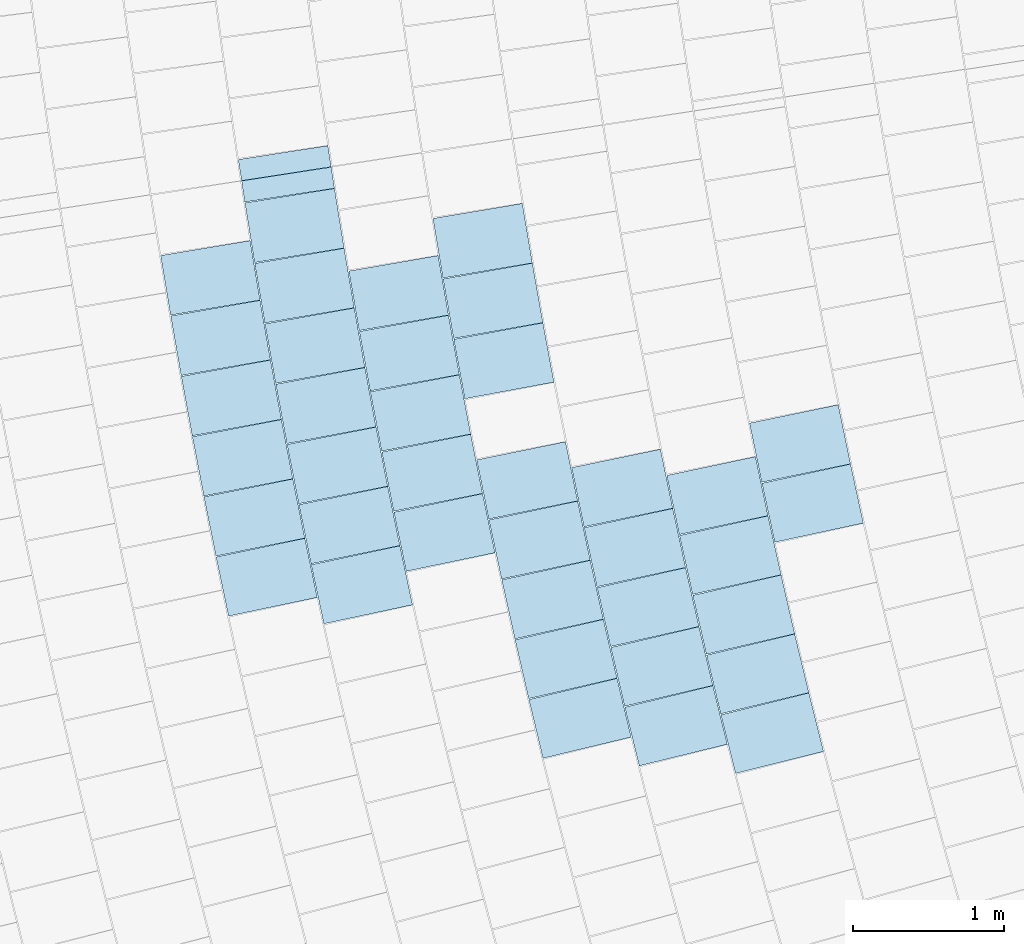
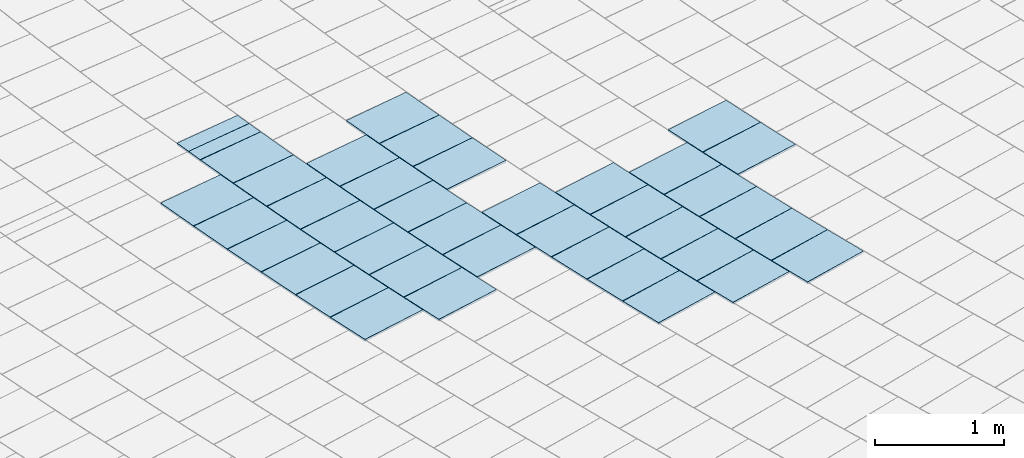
# One storey, part 76 of 438: 40 slabs.
"""IFC2X3 building model written with IfcOpenShell, lengths in millimetres."""

from ifc_helpers import new_model, entity, si_unit, converted_unit, derived_unit, direction, frame, origin, place, context, subcontext, project, spatial, polyline, outline, extrude, material, layer, layer_set, layer_usage, type_object, element, save


model = new_model("IFC2X3")

# Units and contexts
model_context = context("Model", 3, precision=0.01, world=origin(), true_north=direction((6.123031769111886e-17, 1.0)))
body_context = subcontext(model_context, "Body", "Model", "MODEL_VIEW")
ifc_project = project(units=[si_unit("LENGTHUNIT", "METRE", prefix="MILLI"), si_unit("AREAUNIT", "SQUARE_METRE"), si_unit("VOLUMEUNIT", "CUBIC_METRE"), converted_unit("PLANEANGLEUNIT", "DEGREE", entity("IfcRatioMeasure", 0.017453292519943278), si_unit("PLANEANGLEUNIT", "RADIAN"), dimensions=[0, 0, 0, 0, 0, 0, 0]), si_unit("MASSUNIT", "GRAM", prefix="KILO"), derived_unit("MASSDENSITYUNIT", [(si_unit("MASSUNIT", "GRAM", prefix="KILO"), 1), (si_unit("LENGTHUNIT", "METRE"), -3)]), derived_unit("MOMENTOFINERTIAUNIT", [(si_unit("LENGTHUNIT", "METRE"), 4)]), si_unit("TIMEUNIT", "SECOND"), si_unit("FREQUENCYUNIT", "HERTZ"), si_unit("THERMODYNAMICTEMPERATUREUNIT", "DEGREE_CELSIUS"), derived_unit("THERMALTRANSMITTANCEUNIT", [(si_unit("MASSUNIT", "GRAM", prefix="KILO"), 1), (si_unit("THERMODYNAMICTEMPERATUREUNIT", "KELVIN"), -1), (si_unit("TIMEUNIT", "SECOND"), -3)]), derived_unit("THERMALCONDUCTANCEUNIT", [(si_unit("MASSUNIT", "GRAM", prefix="KILO"), 1), (si_unit("LENGTHUNIT", "METRE"), 1), (si_unit("THERMODYNAMICTEMPERATUREUNIT", "KELVIN"), -1), (si_unit("TIMEUNIT", "SECOND"), -3)]), derived_unit("VOLUMETRICFLOWRATEUNIT", [(si_unit("LENGTHUNIT", "METRE"), 3), (si_unit("TIMEUNIT", "SECOND"), -1)]), derived_unit("MASSFLOWRATEUNIT", [(si_unit("MASSUNIT", "GRAM", prefix="KILO"), 1), (si_unit("TIMEUNIT", "SECOND"), -1)]), derived_unit("ROTATIONALFREQUENCYUNIT", [(si_unit("TIMEUNIT", "SECOND"), -1)]), si_unit("ELECTRICCURRENTUNIT", "AMPERE"), si_unit("ELECTRICVOLTAGEUNIT", "VOLT"), si_unit("POWERUNIT", "WATT"), converted_unit("FORCEUNIT", "KIP", entity("IfcRatioMeasure", 2.088543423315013e-05), si_unit("FORCEUNIT", "NEWTON"), dimensions=[1, 1, -2, 0, 0, 0, 0]), si_unit("ILLUMINANCEUNIT", "LUX"), si_unit("LUMINOUSFLUXUNIT", "LUMEN"), si_unit("LUMINOUSINTENSITYUNIT", "CANDELA"), derived_unit("USERDEFINED", [(si_unit("MASSUNIT", "GRAM", prefix="KILO"), -1), (si_unit("LENGTHUNIT", "METRE"), -2), (si_unit("TIMEUNIT", "SECOND"), 3), (si_unit("LUMINOUSFLUXUNIT", "LUMEN"), 1)]), derived_unit("USERDEFINED", [(si_unit("MASSUNIT", "GRAM", prefix="KILO"), 1), (si_unit("LENGTHUNIT", "METRE"), 3), (si_unit("TIMEUNIT", "SECOND"), -3), (si_unit("ELECTRICCURRENTUNIT", "AMPERE"), -2)]), derived_unit("USERDEFINED", [(si_unit("LENGTHUNIT", "METRE"), 2), (si_unit("TIMEUNIT", "SECOND"), -2)]), derived_unit("SOUNDPOWERUNIT", [(si_unit("MASSUNIT", "GRAM", prefix="KILO"), 1), (si_unit("LENGTHUNIT", "METRE"), 2), (si_unit("TIMEUNIT", "SECOND"), -3)]), derived_unit("SOUNDPRESSUREUNIT", [(si_unit("MASSUNIT", "GRAM", prefix="KILO"), 1), (si_unit("LENGTHUNIT", "METRE"), -1), (si_unit("TIMEUNIT", "SECOND"), -2)]), derived_unit("LINEARVELOCITYUNIT", [(si_unit("LENGTHUNIT", "METRE"), 1), (si_unit("TIMEUNIT", "SECOND"), -1)]), si_unit("PRESSUREUNIT", "PASCAL"), derived_unit("USERDEFINED", [(si_unit("LENGTHUNIT", "METRE"), -2), (si_unit("MASSUNIT", "GRAM", prefix="KILO"), 1), (si_unit("TIMEUNIT", "SECOND"), -2)]), derived_unit("LINEARFORCEUNIT", [(si_unit("MASSUNIT", "GRAM", prefix="KILO"), 1), (si_unit("LENGTHUNIT", "METRE"), 1), (si_unit("TIMEUNIT", "SECOND"), -2), (si_unit("LENGTHUNIT", "METRE"), -1)]), derived_unit("PLANARFORCEUNIT", [(si_unit("MASSUNIT", "GRAM", prefix="KILO"), 1), (si_unit("LENGTHUNIT", "METRE"), 1), (si_unit("TIMEUNIT", "SECOND"), -2), (si_unit("LENGTHUNIT", "METRE"), -2)]), derived_unit("SPECIFICHEATCAPACITYUNIT", [(si_unit("LENGTHUNIT", "METRE"), 2), (si_unit("TIMEUNIT", "SECOND"), -2), (si_unit("THERMODYNAMICTEMPERATUREUNIT", "KELVIN"), -1)]), derived_unit("VAPORPERMEABILITYUNIT", [(si_unit("TIMEUNIT", "SECOND"), 1), (si_unit("LENGTHUNIT", "METRE"), -1)]), derived_unit("DYNAMICVISCOSITYUNIT", [(si_unit("MASSUNIT", "GRAM", prefix="KILO"), 1), (si_unit("LENGTHUNIT", "METRE"), -1), (si_unit("TIMEUNIT", "SECOND"), -1)]), derived_unit("THERMALEXPANSIONCOEFFICIENTUNIT", [(si_unit("THERMODYNAMICTEMPERATUREUNIT", "KELVIN"), -1)])], contexts=[model_context])

# Site, building, storey
site_placement = place(None, frame((0.0, 0.0, 0.0), z_axis=(0.0, 0.0, 1.0), x_axis=(0.8191520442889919, 0.5735764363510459, 0.0)))
site = spatial("IfcSite", under=ifc_project, at=site_placement, Name="Default", CompositionType="ELEMENT")
building_placement = place(site_placement, origin())
building = spatial("IfcBuilding", under=site, at=building_placement, CompositionType="ELEMENT")
storey_placement = place(building_placement, origin())
storey = spatial("IfcBuildingStorey", under=building, at=storey_placement, Name="PLAN", CompositionType="ELEMENT", Elevation=0.0)

# Slabs
ifc_material = material(Name="Paint-01")
ifc_layer = layer(ifc_material, 20.00000000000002)
ifc_layer_set = layer_set([ifc_layer], Name="Floor:Slab-179:1000")
ifc_layer_usage = layer_usage(ifc_layer_set, "AXIS3", "POSITIVE", 0.0)
slab_type = type_object("IfcSlabType", Name="Floor:Slab-179:1000", PredefinedType="FLOOR", material=ifc_layer_set)
slab_1_placement = place(storey_placement, origin())
element("IfcSlab", 1, at=slab_1_placement, inside=storey, type_object=slab_type, material=ifc_layer_usage, Name="Floor:Slab-179:1000", ObjectType="Floor:Slab-179:1000", PredefinedType="FLOOR", context=body_context, shape_type="SweptSolid", body=[
    extrude(outline(polyline([(-300.0, -200.00000294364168), (299.99999762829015, -200.00000294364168), (300.0, 200.0000029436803), (-299.99999762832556, 200.0000029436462), (-300.0, -200.00000294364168)])), frame((-82726.3799385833, -51478.88482372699, 520.0), z_axis=(0.0, 0.0, -1.0), x_axis=(0.9321667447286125, -0.36202922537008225, 0.0)), (0.0, 0.0, 1.0), 20.000000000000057),
])
slab_2_placement = place(storey_placement, origin())
element("IfcSlab", 2, at=slab_2_placement, inside=storey, type_object=slab_type, material=ifc_layer_usage, Name="Floor:Slab-179:1000", ObjectType="Floor:Slab-179:1000", PredefinedType="FLOOR", context=body_context, shape_type="SweptSolid", body=[
    extrude(outline(polyline([(-300.0, -200.0000029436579), (299.9999976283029, -200.00000294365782), (300.0, 200.000002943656), (-299.9999976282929, 200.00000294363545), (-300.0, -200.0000029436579)])), frame((-82233.92574768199, -51883.24489409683, 520.0), z_axis=(0.0, 0.0, -1.0), x_axis=(0.9337598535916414, -0.35790017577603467, 0.0)), (0.0, 0.0, 1.0), 20.000000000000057),
])
slab_3_placement = place(storey_placement, origin())
element("IfcSlab", 3, at=slab_3_placement, inside=storey, type_object=slab_type, material=ifc_layer_usage, Name="Floor:Slab-179:1000", ObjectType="Floor:Slab-179:1000", PredefinedType="FLOOR", context=body_context, shape_type="SweptSolid", body=[
    extrude(outline(polyline([(-200.000004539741, -299.9999986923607), (200.0000013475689, -299.9999986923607), (200.0000045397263, 299.9999986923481), (-200.00000134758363, 299.9999986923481), (-200.000004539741, -299.9999986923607)])), frame((-81143.6648752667, -50791.853455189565, 520.0), z_axis=(0.0, 0.0, -1.0), x_axis=(-0.3874376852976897, -0.9218958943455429, 0.0)), (0.0, 0.0, 1.0), 20.000000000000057),
])
slab_4_placement = place(storey_placement, origin())
element("IfcSlab", 4, at=slab_4_placement, inside=storey, type_object=slab_type, material=ifc_layer_usage, Name="Floor:Slab-179:1000", ObjectType="Floor:Slab-179:1000", PredefinedType="FLOOR", context=body_context, shape_type="SweptSolid", body=[
    extrude(outline(polyline([(-200.00000453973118, -299.9999986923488), (200.0000013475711, -299.99999869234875), (200.00000453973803, 299.99999869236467), (-200.0000013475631, 299.9999986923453), (-200.00000453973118, -299.9999986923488)])), frame((-80985.947556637, -50421.29690983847, 520.0), z_axis=(0.0, 0.0, -1.0), x_axis=(-0.39580617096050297, -0.9183340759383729, 0.0)), (0.0, 0.0, 1.0), 20.000000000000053),
])
slab_5_placement = place(storey_placement, origin())
element("IfcSlab", 5, at=slab_5_placement, inside=storey, type_object=slab_type, material=ifc_layer_usage, Name="Floor:Slab-179:1000", ObjectType="Floor:Slab-179:1000", PredefinedType="FLOOR", context=body_context, shape_type="SweptSolid", body=[
    extrude(outline(polyline([(-200.00000453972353, -299.99999869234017), (200.00000134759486, -299.99999869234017), (200.0000045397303, 299.9999986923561), (-200.00000134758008, 299.99999869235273), (-200.00000453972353, -299.99999869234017)])), frame((-81630.57529396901, -50389.852101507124, 520.0), z_axis=(0.0, 0.0, -1.0), x_axis=(-0.3911717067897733, -0.9203177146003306, 0.0)), (0.0, 0.0, 1.0), 20.000000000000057),
])
slab_6_placement = place(storey_placement, origin())
element("IfcSlab", 6, at=slab_6_placement, inside=storey, type_object=slab_type, material=ifc_layer_usage, Name="Floor:Slab-179:1000", ObjectType="Floor:Slab-179:1000", PredefinedType="FLOOR", context=body_context, shape_type="SweptSolid", body=[
    extrude(outline(polyline([(-200.00000453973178, -299.9999986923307), (200.00000134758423, -299.9999986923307), (200.00000453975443, 299.9999986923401), (-200.00000134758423, 299.9999986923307), (-200.00000453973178, -299.9999986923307)])), frame((-81786.43121534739, -50761.1553578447, 520.0), z_axis=(0.0, 0.0, -1.0), x_axis=(-0.38289938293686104, -0.9237900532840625, 0.0)), (0.0, 0.0, 1.0), 20.000000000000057),
])
slab_7_placement = place(storey_placement, origin())
element("IfcSlab", 7, at=slab_7_placement, inside=storey, type_object=slab_type, material=ifc_layer_usage, Name="Floor:Slab-179:1000", ObjectType="Floor:Slab-179:1000", PredefinedType="FLOOR", context=body_context, shape_type="SweptSolid", body=[
    extrude(outline(polyline([(-200.00000453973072, -299.99999869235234), (200.00000134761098, -299.99999869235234), (200.00000453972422, 299.99999869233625), (-200.00000134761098, 299.99999869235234), (-200.00000453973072, -299.99999869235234)])), frame((-81938.949737, -51133.84192447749, 520.0), z_axis=(0.0, 0.0, -1.0), x_axis=(-0.37459624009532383, -0.9271880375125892, 0.0)), (0.0, 0.0, 1.0), 20.000000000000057),
])
slab_8_placement = place(storey_placement, origin())
element("IfcSlab", 8, at=slab_8_placement, inside=storey, type_object=slab_type, material=ifc_layer_usage, Name="Floor:Slab-179:1000", ObjectType="Floor:Slab-179:1000", PredefinedType="FLOOR", context=body_context, shape_type="SweptSolid", body=[
    extrude(outline(polyline([(-200.00000453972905, -299.9999986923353), (200.00000134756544, -299.9999986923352), (200.0000045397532, 299.99999869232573), (-200.00000134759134, 299.99999869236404), (-200.00000453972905, -299.9999986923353)])), frame((-82088.11858294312, -51507.881804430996, 520.0), z_axis=(0.0, 0.0, -1.0), x_axis=(-0.3662629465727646, -0.9305113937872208, 0.0)), (0.0, 0.0, 1.0), 19.999999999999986),
])
slab_9_placement = place(storey_placement, origin())
element("IfcSlab", 9, at=slab_9_placement, inside=storey, type_object=slab_type, material=ifc_layer_usage, Name="Floor:Slab-179:1000", ObjectType="Floor:Slab-179:1000", PredefinedType="FLOOR", context=body_context, shape_type="SweptSolid", body=[
    extrude(outline(polyline([(-200.00000453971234, -299.99999869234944), (200.00000134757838, -299.99999869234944), (200.00000453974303, 299.99999869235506), (-200.00000134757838, 299.99999869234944), (-200.00000453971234, -299.99999869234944)])), frame((-82116.83774478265, -49988.161445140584, 520.0), z_axis=(0.0, 0.0, -1.0), x_axis=(-0.39479957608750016, -0.9187672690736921, 0.0)), (0.0, 0.0, 1.0), 20.000000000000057),
])
slab_10_placement = place(storey_placement, origin())
element("IfcSlab", 10, at=slab_10_placement, inside=storey, type_object=slab_type, material=ifc_layer_usage, Name="Floor:Slab-179:1000", ObjectType="Floor:Slab-179:1000", PredefinedType="FLOOR", context=body_context, shape_type="SweptSolid", body=[
    extrude(outline(polyline([(-200.00000453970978, -299.9999986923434), (200.0000013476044, -299.9999986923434), (200.00000453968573, 299.99999869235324), (-200.00000134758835, 299.9999986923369), (-200.00000453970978, -299.9999986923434)])), frame((-82428.20655134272, -50730.82539422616, 520.0), z_axis=(0.0, 0.0, -1.0), x_axis=(-0.37847370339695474, -0.925612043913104, 0.0)), (0.0, 0.0, 1.0), 20.000000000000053),
])
slab_11_placement = place(storey_placement, origin())
element("IfcSlab", 11, at=slab_11_placement, inside=storey, type_object=slab_type, material=ifc_layer_usage, Name="Floor:Slab-179:1000", ObjectType="Floor:Slab-179:1000", PredefinedType="FLOOR", context=body_context, shape_type="SweptSolid", body=[
    extrude(outline(polyline([(-200.00000453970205, -299.99999869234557), (200.00000134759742, -299.9999986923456), (200.00000453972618, 299.99999869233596), (-200.0000013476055, 299.9999986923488), (-200.00000453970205, -299.99999869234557)])), frame((-82578.94860950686, -51104.195286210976, 520.0), z_axis=(0.0, 0.0, -1.0), x_axis=(-0.37026596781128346, -0.9289257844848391, 0.0)), (0.0, 0.0, 1.0), 20.000000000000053),
])
slab_12_placement = place(storey_placement, origin())
element("IfcSlab", 12, at=slab_12_placement, inside=storey, type_object=slab_type, material=ifc_layer_usage, Name="Floor:Slab-179:1000", ObjectType="Floor:Slab-179:1000", PredefinedType="FLOOR", context=body_context, shape_type="SweptSolid", body=[
    extrude(outline(polyline([(-200.0000045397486, -299.9999986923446), (200.00000134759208, -299.9999986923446), (200.00000453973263, 299.9999986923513), (-200.00000134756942, 299.99999869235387), (-200.0000045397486, -299.9999986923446)])), frame((-82274.1655735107, -50358.804398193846, 520.0), z_axis=(0.0, 0.0, -1.0), x_axis=(-0.38665178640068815, -0.9222257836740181, 0.0)), (0.0, 0.0, 1.0), 20.000000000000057),
])
slab_13_placement = place(storey_placement, origin())
element("IfcSlab", 13, at=slab_13_placement, inside=storey, type_object=slab_type, material=ifc_layer_usage, Name="Floor:Slab-179:1000", ObjectType="Floor:Slab-179:1000", PredefinedType="FLOOR", context=body_context, shape_type="SweptSolid", body=[
    extrude(outline(polyline([(-299.99999762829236, -200.00000294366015), (300.0, -200.00000294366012), (299.9999976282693, 200.00000294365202), (-300.0, 200.0000029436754), (-299.99999762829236, -200.00000294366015)])), frame((-81935.3150094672, -48121.0820352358, 520.0), z_axis=(0.0, 0.0, -1.0), x_axis=(0.9027703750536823, -0.43012283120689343, 0.0)), (0.0, 0.0, 1.0), 20.000000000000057),
])
slab_14_placement = place(storey_placement, origin())
element("IfcSlab", 14, at=slab_14_placement, inside=storey, type_object=slab_type, material=ifc_layer_usage, Name="Floor:Slab-179:1000", ObjectType="Floor:Slab-179:1000", PredefinedType="FLOOR", context=body_context, shape_type="SweptSolid", body=[
    extrude(outline(polyline([(-299.9999976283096, -200.00000294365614), (300.0, -200.00000294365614), (299.9999976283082, 200.00000294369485), (-300.0, 200.0000029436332), (-299.9999976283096, -200.00000294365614)])), frame((-82275.29829229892, -48851.01306817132, 520.0), z_axis=(0.0, 0.0, -1.0), x_axis=(0.9101460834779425, -0.414287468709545, 0.0)), (0.0, 0.0, 1.0), 20.000000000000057),
])
slab_15_placement = place(storey_placement, origin())
element("IfcSlab", 15, at=slab_15_placement, inside=storey, type_object=slab_type, material=ifc_layer_usage, Name="Floor:Slab-179:1000", ObjectType="Floor:Slab-179:1000", PredefinedType="FLOOR", context=body_context, shape_type="SweptSolid", body=[
    extrude(outline(polyline([(-299.9999976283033, -200.00000294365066), (300.0, -200.00000294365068), (299.99999762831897, 200.00000294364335), (-300.0, 200.00000294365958), (-299.9999976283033, -200.00000294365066)])), frame((-82106.90056079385, -48485.305149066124, 520.0), z_axis=(0.0, 0.0, -1.0), x_axis=(0.9064928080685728, -0.4222212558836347, 0.0)), (0.0, 0.0, 1.0), 20.000000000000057),
])
slab_16_placement = place(storey_placement, origin())
element("IfcSlab", 16, at=slab_16_placement, inside=storey, type_object=slab_type, material=ifc_layer_usage, Name="Floor:Slab-179:1000", ObjectType="Floor:Slab-179:1000", PredefinedType="FLOOR", context=body_context, shape_type="SweptSolid", body=[
    extrude(outline(polyline([(-200.00000453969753, -299.9999986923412), (200.00000134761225, -299.99999869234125), (200.00000453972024, 299.9999986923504), (-200.00000134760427, 299.99999869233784), (-200.00000453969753, -299.9999986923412)])), frame((-82761.23731677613, -49956.76609983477, 520.0), z_axis=(0.0, 0.0, -1.0), x_axis=(-0.39029890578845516, -0.920688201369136, 0.0)), (0.0, 0.0, 1.0), 20.000000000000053),
])
slab_17_placement = place(storey_placement, origin())
element("IfcSlab", 17, at=slab_17_placement, inside=storey, type_object=slab_type, material=ifc_layer_usage, Name="Floor:Slab-179:1000", ObjectType="Floor:Slab-179:1000", PredefinedType="FLOOR", context=body_context, shape_type="SweptSolid", body=[
    extrude(outline(polyline([(-200.00000453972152, -299.9999986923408), (200.00000134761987, -299.9999986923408), (200.00000453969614, 299.99999869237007), (-200.00000134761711, 299.9999986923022), (-200.00000453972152, -299.9999986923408)])), frame((-82916.75774263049, -50328.133135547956, 520.0), z_axis=(0.0, 0.0, -1.0), x_axis=(-0.3822423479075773, -0.9240621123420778, 0.0)), (0.0, 0.0, 1.0), 20.000000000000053),
])
slab_18_placement = place(storey_placement, origin())
element("IfcSlab", 18, at=slab_18_placement, inside=storey, type_object=slab_type, material=ifc_layer_usage, Name="Floor:Slab-179:1000", ObjectType="Floor:Slab-179:1000", PredefinedType="FLOOR", context=body_context, shape_type="SweptSolid", body=[
    extrude(outline(polyline([(-200.00000453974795, -299.9999986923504), (200.00000134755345, -299.99999869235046), (200.00000453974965, 299.99999869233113), (-200.00000134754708, 299.99999869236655), (-200.00000453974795, -299.9999986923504)])), frame((-83218.03816250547, -51074.871412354, 520.0), z_axis=(0.0, 0.0, -1.0), x_axis=(-0.3660423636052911, -0.9305981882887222, 0.0)), (0.0, 0.0, 1.0), 20.000000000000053),
])
slab_19_placement = place(storey_placement, origin())
element("IfcSlab", 19, at=slab_19_placement, inside=storey, type_object=slab_type, material=ifc_layer_usage, Name="Floor:Slab-179:1000", ObjectType="Floor:Slab-179:1000", PredefinedType="FLOOR", context=body_context, shape_type="SweptSolid", body=[
    extrude(outline(polyline([(-200.00000453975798, -299.99999869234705), (200.00000134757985, -299.99999869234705), (200.00000453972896, 299.99999869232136), (-200.00000134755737, 299.99999869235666), (-200.00000453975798, -299.99999869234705)])), frame((-83069.02856352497, -50700.84438460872, 520.0), z_axis=(0.0, 0.0, -1.0), x_axis=(-0.37415662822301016, -0.9273655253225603, 0.0)), (0.0, 0.0, 1.0), 20.000000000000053),
])
slab_20_placement = place(storey_placement, origin())
element("IfcSlab", 20, at=slab_20_placement, inside=storey, type_object=slab_type, material=ifc_layer_usage, Name="Floor:Slab-179:1000", ObjectType="Floor:Slab-179:1000", PredefinedType="FLOOR", context=body_context, shape_type="SweptSolid", body=[
    extrude(outline(polyline([(-200.0000045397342, -299.99999869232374), (200.0000013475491, -299.99999869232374), (200.000004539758, 299.99999869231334), (-200.00000134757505, 299.9999986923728), (-200.0000045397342, -299.99999869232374)])), frame((-82602.47915083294, -49586.7716095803, 520.0), z_axis=(0.0, 0.0, -1.0), x_axis=(-0.39832568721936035, -0.917244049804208, 0.0)), (0.0, 0.0, 1.0), 20.000000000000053),
])
slab_21_placement = place(storey_placement, origin())
element("IfcSlab", 21, at=slab_21_placement, inside=storey, type_object=slab_type, material=ifc_layer_usage, Name="Floor:Slab-179:1000", ObjectType="Floor:Slab-179:1000", PredefinedType="FLOOR", context=body_context, shape_type="SweptSolid", body=[
    extrude(outline(polyline([(-299.9999976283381, -200.0000029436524), (300.0, -200.00000294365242), (299.99999762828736, 200.00000294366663), (-300.0, 200.00000294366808), (-299.9999976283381, -200.0000029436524)])), frame((-82588.05918379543, -48086.07521345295, 520.0), z_axis=(0.0, 0.0, -1.0), x_axis=(0.9050523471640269, -0.42530018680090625, 0.0)), (0.0, 0.0, 1.0), 20.000000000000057),
])
slab_22_placement = place(storey_placement, origin())
element("IfcSlab", 22, at=slab_22_placement, inside=storey, type_object=slab_type, material=ifc_layer_usage, Name="Floor:Slab-179:1000", ObjectType="Floor:Slab-179:1000", PredefinedType="FLOOR", context=body_context, shape_type="SweptSolid", body=[
    extrude(outline(polyline([(-299.9999976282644, -200.00000294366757), (300.0, -200.00000294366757), (299.99999762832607, 200.0000029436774), (-300.0, 200.0000029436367), (-299.9999976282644, -200.00000294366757)])), frame((-82757.70550079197, -48451.16804372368, 520.0), z_axis=(0.0, 0.0, -1.0), x_axis=(0.9086850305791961, -0.41748235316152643, 0.0)), (0.0, 0.0, 1.0), 20.000000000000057),
])
slab_23_placement = place(storey_placement, origin())
element("IfcSlab", 23, at=slab_23_placement, inside=storey, type_object=slab_type, material=ifc_layer_usage, Name="Floor:Slab-179:1000", ObjectType="Floor:Slab-179:1000", PredefinedType="FLOOR", context=body_context, shape_type="SweptSolid", body=[
    extrude(outline(polyline([(-200.00000453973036, -299.9999986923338), (200.00000134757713, -299.99999869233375), (200.00000453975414, 299.99999869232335), (-200.00000134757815, 299.99999869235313), (-200.00000453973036, -299.9999986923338)])), frame((-83087.52497034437, -49185.67309029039, 520.0), z_axis=(0.0, 0.0, -1.0), x_axis=(-0.40175419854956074, -0.9157475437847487, 0.0)), (0.0, 0.0, 1.0), 20.000000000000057),
])
slab_24_placement = place(storey_placement, origin())
element("IfcSlab", 24, at=slab_24_placement, inside=storey, type_object=slab_type, material=ifc_layer_usage, Name="Floor:Slab-179:1000", ObjectType="Floor:Slab-179:1000", PredefinedType="FLOOR", context=body_context, shape_type="SweptSolid", body=[
    extrude(outline(polyline([(-200.00000453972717, -299.9999986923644), (200.00000134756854, -299.9999986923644), (200.00000453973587, 299.9999986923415), (-200.00000134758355, 299.9999986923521), (-200.00000453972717, -299.9999986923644)])), frame((-82924.19822060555, -48817.7097491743, 520.0), z_axis=(0.0, 0.0, -1.0), x_axis=(-0.4096334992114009, -0.9122501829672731, 0.0)), (0.0, 0.0, 1.0), 20.000000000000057),
])
slab_25_placement = place(storey_placement, origin())
element("IfcSlab", 25, at=slab_25_placement, inside=storey, type_object=slab_type, material=ifc_layer_usage, Name="Floor:Slab-179:1000", ObjectType="Floor:Slab-179:1000", PredefinedType="FLOOR", context=body_context, shape_type="SweptSolid", body=[
    extrude(outline(polyline([(-200.00000453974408, -299.9999986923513), (200.00000134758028, -299.9999986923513), (200.00000453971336, 299.9999986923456), (-200.00000134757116, 299.9999986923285), (-200.00000453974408, -299.9999986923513)])), frame((-83247.67361239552, -49555.03072190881, 520.0), z_axis=(0.0, 0.0, -1.0), x_axis=(-0.3938450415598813, -0.9191768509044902, 0.0)), (0.0, 0.0, 1.0), 20.000000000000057),
])
slab_26_placement = place(storey_placement, origin())
element("IfcSlab", 26, at=slab_26_placement, inside=storey, type_object=slab_type, material=ifc_layer_usage, Name="Floor:Slab-179:1000", ObjectType="Floor:Slab-179:1000", PredefinedType="FLOOR", context=body_context, shape_type="SweptSolid", body=[
    extrude(outline(polyline([(-300.0, -200.00000294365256), (299.99999762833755, -200.0000029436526), (300.0, 200.0000029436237), (-299.99999762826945, 200.00000294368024), (-300.0, -200.00000294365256)])), frame((-83892.57521709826, -49525.379505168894, 520.0), z_axis=(0.0, 0.0, -1.0), x_axis=(0.9210540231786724, -0.3894348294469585, 0.0)), (0.0, 0.0, 1.0), 20.000000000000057),
])
slab_27_placement = place(storey_placement, origin())
element("IfcSlab", 27, at=slab_27_placement, inside=storey, type_object=slab_type, material=ifc_layer_usage, Name="Floor:Slab-179:1000", ObjectType="Floor:Slab-179:1000", PredefinedType="FLOOR", context=body_context, shape_type="SweptSolid", body=[
    extrude(outline(polyline([(-300.0, -200.00000294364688), (299.99999762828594, -200.00000294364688), (300.0, 200.00000294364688), (-299.9999976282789, 200.0000029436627), (-300.0, -200.00000294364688)])), frame((-83572.74585529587, -48786.54180811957, 520.0), z_axis=(0.0, 0.0, -1.0), x_axis=(0.9142930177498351, -0.40505342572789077, 0.0)), (0.0, 0.0, 1.0), 19.999999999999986),
])
slab_28_placement = place(storey_placement, origin())
element("IfcSlab", 28, at=slab_28_placement, inside=storey, type_object=slab_type, material=ifc_layer_usage, Name="Floor:Slab-179:1000", ObjectType="Floor:Slab-179:1000", PredefinedType="FLOOR", context=body_context, shape_type="SweptSolid", body=[
    extrude(outline(polyline([(-300.0, -200.00000294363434), (299.9999976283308, -200.00000294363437), (300.0, 200.00000294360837), (-299.9999976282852, 200.00000294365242), (-300.0, -200.00000294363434)])), frame((-83734.23236410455, -49155.28024101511, 520.0), z_axis=(0.0, 0.0, -1.0), x_axis=(0.9177067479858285, -0.39725851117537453, 0.0)), (0.0, 0.0, 1.0), 19.99999999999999),
])
slab_29_placement = place(storey_placement, origin())
element("IfcSlab", 29, at=slab_29_placement, inside=storey, type_object=slab_type, material=ifc_layer_usage, Name="Floor:Slab-179:1000", ObjectType="Floor:Slab-179:1000", PredefinedType="FLOOR", context=body_context, shape_type="SweptSolid", body=[
    extrude(outline(polyline([(-300.0, -200.0000029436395), (299.99999762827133, -200.0000029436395), (300.0, 200.00000294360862), (-299.9999976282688, 200.0000029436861), (-300.0, -200.0000029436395)])), frame((-83240.38887272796, -48053.254143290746, 520.0), z_axis=(0.0, 0.0, -1.0), x_axis=(0.9072671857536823, -0.4205546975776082, 0.0)), (0.0, 0.0, 1.0), 20.000000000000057),
])
slab_30_placement = place(storey_placement, origin())
element("IfcSlab", 30, at=slab_30_placement, inside=storey, type_object=slab_type, material=ifc_layer_usage, Name="Floor:Slab-179:1000", ObjectType="Floor:Slab-179:1000", PredefinedType="FLOOR", context=body_context, shape_type="SweptSolid", body=[
    extrude(outline(polyline([(-300.0, -200.0000029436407), (299.99999762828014, -200.0000029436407), (300.0, 200.00000294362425), (-299.999997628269, 200.00000294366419), (-300.0, -200.0000029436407)])), frame((-83069.54246634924, -47688.75801183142, 520.0), z_axis=(0.0, 0.0, -1.0), x_axis=(0.9036555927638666, -0.42825993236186, 0.0)), (0.0, 0.0, 1.0), 19.999999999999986),
])
slab_31_placement = place(storey_placement, origin())
element("IfcSlab", 31, at=slab_31_placement, inside=storey, type_object=slab_type, material=ifc_layer_usage, Name="Floor:Slab-179:1000", ObjectType="Floor:Slab-179:1000", PredefinedType="FLOOR", context=body_context, shape_type="SweptSolid", body=[
    extrude(outline(polyline([(-300.0, -200.0000029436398), (299.9999976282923, -200.0000029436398), (300.0, 200.00000294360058), (-299.9999976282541, 200.00000294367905), (-300.0, -200.0000029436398)])), frame((-82895.60053717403, -47325.72890873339, 520.0), z_axis=(0.0, 0.0, -1.0), x_axis=(0.8999785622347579, -0.43593415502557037, 0.0)), (0.0, 0.0, 1.0), 20.000000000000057),
])
slab_32_placement = place(storey_placement, origin())
element("IfcSlab", 32, at=slab_32_placement, inside=storey, type_object=slab_type, material=ifc_layer_usage, Name="Floor:Slab-179:1000", ObjectType="Floor:Slab-179:1000", PredefinedType="FLOOR", context=body_context, shape_type="SweptSolid", body=[
    extrude(outline(polyline([(-299.9999986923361, -71.27713909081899), (299.9999986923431, -71.27713909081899), (299.99999869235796, 71.27714068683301), (-299.9999986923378, 71.27713749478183), (-299.9999986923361, -71.27713909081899)])), frame((-82775.67415776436, -47079.55923378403, 520.0), z_axis=(0.0, 0.0, -1.0), x_axis=(0.8962363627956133, -0.4435768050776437, 0.0)), (0.0, 0.0, 1.0), 20.000000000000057),
])
slab_33_placement = place(storey_placement, origin())
element("IfcSlab", 33, at=slab_33_placement, inside=storey, type_object=slab_type, material=ifc_layer_usage, Name="Floor:Slab-179:1000", ObjectType="Floor:Slab-179:1000", PredefinedType="FLOOR", context=body_context, shape_type="SweptSolid", body=[
    extrude(outline(polyline([(-300.0, -200.00000294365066), (299.9999976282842, -200.00000294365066), (300.0, 200.0000029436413), (-299.9999976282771, 200.00000294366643), (-300.0, -200.00000294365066)])), frame((-83408.12738459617, -48419.19090839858, 520.0), z_axis=(0.0, 0.0, -1.0), x_axis=(0.9108130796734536, -0.4128190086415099, 0.0)), (0.0, 0.0, 1.0), 20.000000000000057),
])
slab_34_placement = place(storey_placement, origin())
element("IfcSlab", 34, at=slab_34_placement, inside=storey, type_object=slab_type, material=ifc_layer_usage, Name="Floor:Slab-179:1000", ObjectType="Floor:Slab-179:1000", PredefinedType="FLOOR", context=body_context, shape_type="SweptSolid", body=[
    extrude(outline(polyline([(-300.0, -200.00000294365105), (299.9999976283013, -200.00000294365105), (300.0, 200.00000294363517), (-299.99999762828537, 200.00000294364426), (-300.0, -200.00000294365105)])), frame((-84379.19272075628, -49123.62078230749, 520.0), z_axis=(0.0, 0.0, -1.0), x_axis=(0.9195800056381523, -0.3929028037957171, 0.0)), (0.0, 0.0, 1.0), 20.000000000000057),
])
slab_35_placement = place(storey_placement, origin())
element("IfcSlab", 35, at=slab_35_placement, inside=storey, type_object=slab_type, material=ifc_layer_usage, Name="Floor:Slab-179:1000", ObjectType="Floor:Slab-179:1000", PredefinedType="FLOOR", context=body_context, shape_type="SweptSolid", body=[
    extrude(outline(polyline([(-300.0, -200.00000294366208), (299.99999762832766, -200.00000294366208), (300.0, 200.0000029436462), (-299.9999976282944, 200.00000294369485), (-300.0, -200.00000294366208)])), frame((-84219.48918735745, -48754.14187493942, 520.0), z_axis=(0.0, 0.0, -1.0), x_axis=(0.9162465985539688, -0.40061474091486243, 0.0)), (0.0, 0.0, 1.0), 20.000000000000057),
])
slab_36_placement = place(storey_placement, origin())
element("IfcSlab", 36, at=slab_36_placement, inside=storey, type_object=slab_type, material=ifc_layer_usage, Name="Floor:Slab-179:1000", ObjectType="Floor:Slab-179:1000", PredefinedType="FLOOR", context=body_context, shape_type="SweptSolid", body=[
    extrude(outline(polyline([(-300.0, -200.00000294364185), (299.99999762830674, -200.00000294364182), (300.0, 200.00000294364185), (-299.99999762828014, 200.00000294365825), (-300.0, -200.00000294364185)])), frame((-83890.79804751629, -48019.27438715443, 520.0), z_axis=(0.0, 0.0, -1.0), x_axis=(0.9093860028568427, -0.41595323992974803, 0.0)), (0.0, 0.0, 1.0), 20.000000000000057),
])
slab_37_placement = place(storey_placement, origin())
element("IfcSlab", 37, at=slab_37_placement, inside=storey, type_object=slab_type, material=ifc_layer_usage, Name="Floor:Slab-179:1000", ObjectType="Floor:Slab-179:1000", PredefinedType="FLOOR", context=body_context, shape_type="SweptSolid", body=[
    extrude(outline(polyline([(-300.0, -200.0000029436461), (299.99999762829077, -200.00000294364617), (300.0, 200.00000294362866), (-299.9999976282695, 200.0000029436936), (-300.0, -200.0000029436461)])), frame((-84056.6871324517, -48386.01774847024, 520.0), z_axis=(0.0, 0.0, -1.0), x_axis=(0.9128485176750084, -0.4082984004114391, 0.0)), (0.0, 0.0, 1.0), 20.000000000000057),
])
slab_38_placement = place(storey_placement, origin())
element("IfcSlab", 38, at=slab_38_placement, inside=storey, type_object=slab_type, material=ifc_layer_usage, Name="Floor:Slab-179:1000", ObjectType="Floor:Slab-179:1000", PredefinedType="FLOOR", context=body_context, shape_type="SweptSolid", body=[
    extrude(outline(polyline([(-300.0, -200.00000294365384), (299.99999762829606, -200.0000029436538), (300.0, 200.00000294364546), (-299.99999762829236, 200.00000294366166), (-300.0, -200.00000294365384)])), frame((-83721.83364192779, -47653.93767778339, 520.0), z_axis=(0.0, 0.0, -1.0), x_axis=(0.9058592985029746, -0.4235787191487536, 0.0)), (0.0, 0.0, 1.0), 20.000000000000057),
])
slab_39_placement = place(storey_placement, origin())
element("IfcSlab", 39, at=slab_39_placement, inside=storey, type_object=slab_type, material=ifc_layer_usage, Name="Floor:Slab-179:1000", ObjectType="Floor:Slab-179:1000", PredefinedType="FLOOR", context=body_context, shape_type="SweptSolid", body=[
    extrude(outline(polyline([(-300.0, -200.00000294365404), (299.99999762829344, -200.00000294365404), (300.0, 200.00000294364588), (-299.9999976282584, 200.0000029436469), (-300.0, -200.00000294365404)])), frame((-83549.80584213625, -47290.03340785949, 520.0), z_axis=(0.0, 0.0, -1.0), x_axis=(0.9022686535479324, -0.4311742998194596, 0.0)), (0.0, 0.0, 1.0), 20.000000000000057),
])
slab_40_placement = place(storey_placement, origin())
element("IfcSlab", 40, at=slab_40_placement, inside=storey, type_object=slab_type, material=ifc_layer_usage, Name="Floor:Slab-179:1000", ObjectType="Floor:Slab-179:1000", PredefinedType="FLOOR", context=body_context, shape_type="SweptSolid", body=[
    extrude(outline(polyline([(-299.9999983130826, -71.27713909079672), (299.99999907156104, -71.27713909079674), (299.9999983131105, 71.27714068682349), (-299.9999990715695, 71.27713749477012), (-299.9999983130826, -71.27713909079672)])), frame((-82712.43787772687, -46951.40180943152, 520.0), z_axis=(0.0, 0.0, -1.0), x_axis=(0.8973077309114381, -0.44140552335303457, 0.0)), (0.0, 0.0, 1.0), 19.999999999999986),
])

save(model, "model.ifc")
